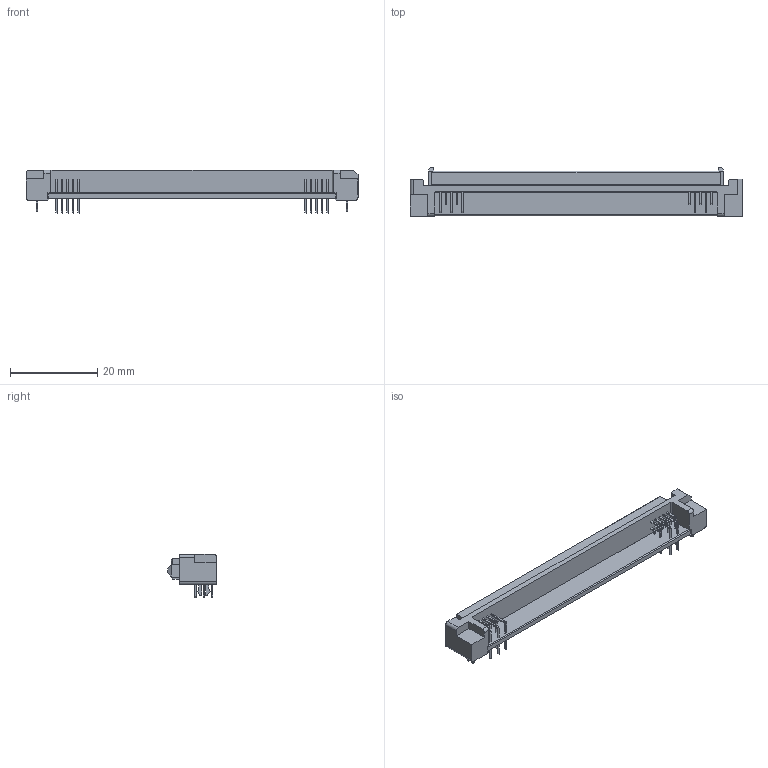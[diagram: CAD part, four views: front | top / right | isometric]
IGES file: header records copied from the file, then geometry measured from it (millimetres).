
Global section: file name: Q:\us339562\steve\web model\P50L-100S-RR1-DA_igs.igs; native system: NX V7.5; preprocessor: SIEMENS PLM Software NX 7.5; date: 20110921.095007; units: millimetre
Bounding box: 76.23 x 11.2 x 10 mm (x, y, z)
Surface area: 3529.9 mm2 (no closed solid volume)
Topology: 0 solids, 0 shells, 975 faces, 5464 edges, 5464 vertices
Faces by surface type: bspline 975
